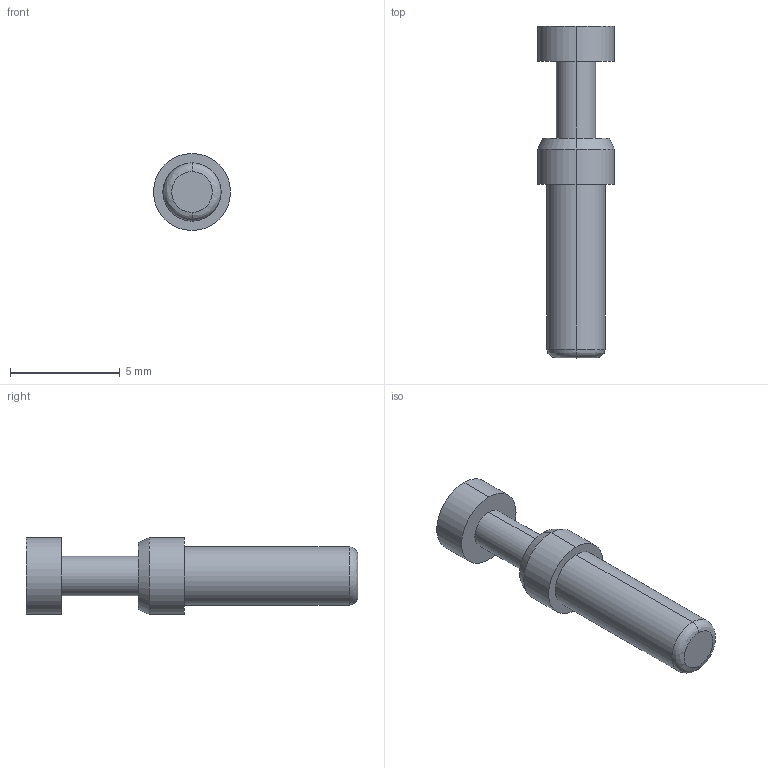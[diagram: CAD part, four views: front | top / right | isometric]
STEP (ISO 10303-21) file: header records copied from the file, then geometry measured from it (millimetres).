
FILE_DESCRIPTION (( 'STEP AP214' ), '1' );
FILE_NAME ('PC8F-138.STEP', '2021-07-13T09:42:04', ( '' ), ( '' ), 'SwSTEP 2.0', 'SolidWorks 2021', '' );
FILE_SCHEMA (( 'AUTOMOTIVE_DESIGN' ));
Length unit declared in the file: millimetre
Products named in the file (1): PC8F-138
Bounding box: 3.5 x 15.1 x 3.5 mm (x, y, z)
Volume: 87.2 mm3; surface area: 155.9 mm2
Topology: 1 solids, 1 shells, 17 faces, 32 edges, 20 vertices
Faces by surface type: cylinder 8, plane 5, bspline 2, cone 2
Entity records: 490 total; most frequent: CARTESIAN_POINT 106, DIRECTION 82, ORIENTED_EDGE 64, AXIS2_PLACEMENT_3D 36, EDGE_CURVE 32, CIRCLE 20, VERTEX_POINT 20, EDGE_LOOP 20
